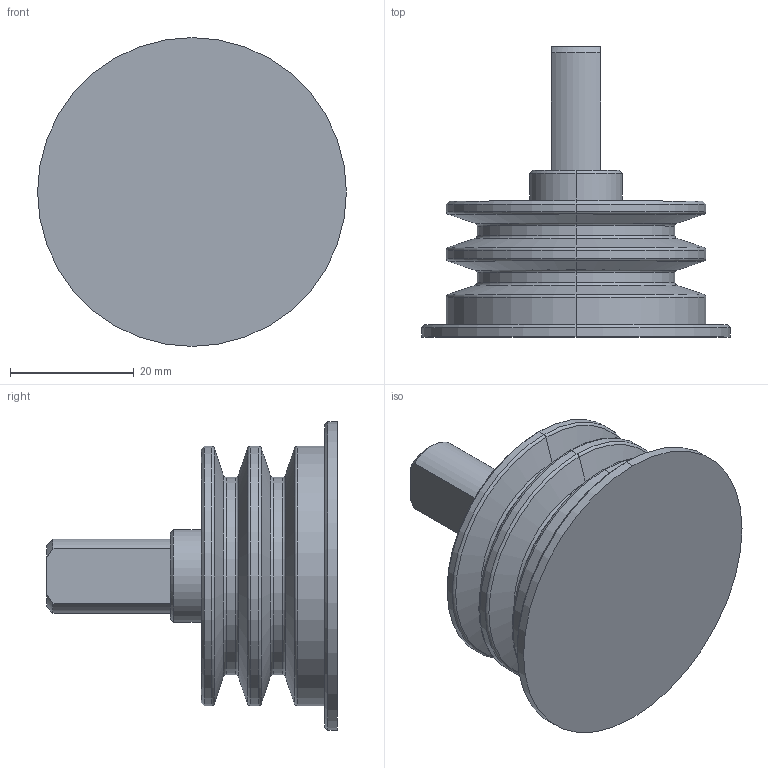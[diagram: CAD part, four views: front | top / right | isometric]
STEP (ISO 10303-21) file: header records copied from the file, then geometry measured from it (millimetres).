
FILE_DESCRIPTION (( 'STEP AP203' ), '1' );
FILE_NAME ('“ü—Í‘¤BH500OVP.STEP', '2022-05-30T00:50:32', ( '' ), ( '' ), 'SwSTEP 2.0', 'SolidWorks 2017', '' );
FILE_SCHEMA (( 'CONFIG_CONTROL_DESIGN' ));
Length unit declared in the file: millimetre
Products named in the file (1): 入力側BH500OVP
Bounding box: 50 x 47 x 50 mm (x, y, z)
Volume: 29014.5 mm3; surface area: 9426 mm2
Topology: 1 solids, 1 shells, 60 faces, 123 edges, 69 vertices
Faces by surface type: cylinder 19, cone 17, torus 16, plane 8
Entity records: 1655 total; most frequent: DIRECTION 320, CARTESIAN_POINT 265, ORIENTED_EDGE 246, AXIS2_PLACEMENT_3D 140, EDGE_CURVE 123, CIRCLE 79, VERTEX_POINT 69, EDGE_LOOP 64
